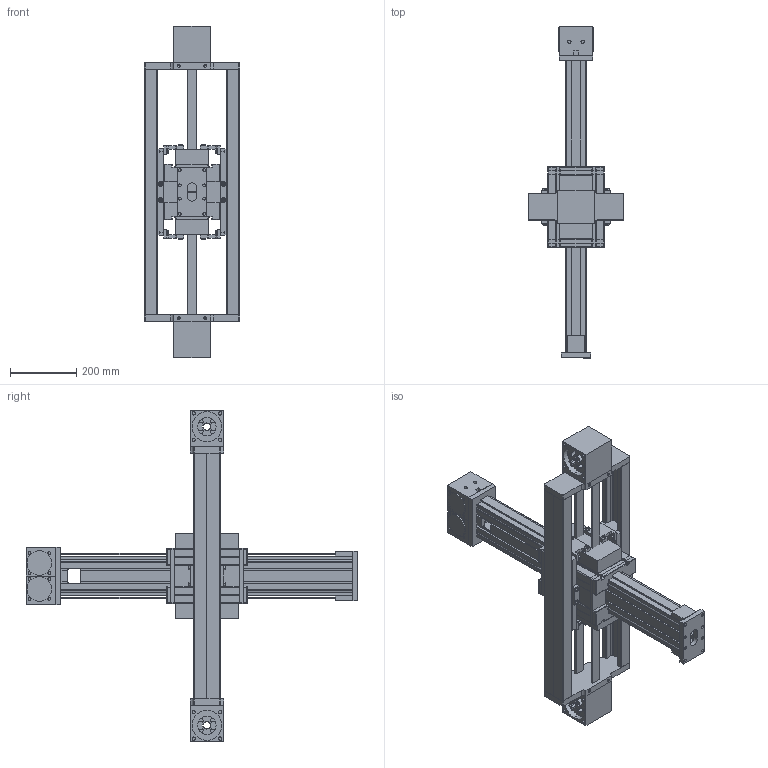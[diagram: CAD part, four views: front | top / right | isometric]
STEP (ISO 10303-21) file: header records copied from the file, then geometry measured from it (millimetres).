
FILE_DESCRIPTION (( 'STEP AP214' ), '1' );
FILE_NAME ('ELZI60SW.STEP', '2022-07-19T12:44:54', ( '' ), ( '' ), 'SwSTEP 2.0', 'SolidWorks 2020', '' );
FILE_SCHEMA (( 'AUTOMOTIVE_DESIGN' ));
Length unit declared in the file: millimetre
Products named in the file (12): end plate^ELZI60SW; reverse unit connection^ELZI60SW; timing belt reverse unit z^ELZI60SW_caps; profile x^ELZI60SW; carriage x^ELZI60SW_carriage version 0; end block^ELZI60SW; ELZI60SW; timing belt reverse unit x^ELZI60SW_coupling claw pos.1; timing belt reverse unit x^ELZI60SW_coupling claw pos.2; connecting angle^ELZI60SW; profile z^ELZI60SW; carriage z^ELZI60SW_carriage version 1
Assembly tree (17 placements, depth 2):
  ELZI60SW
    profile x^ELZI60SW
    profile z^ELZI60SW
    carriage z^ELZI60SW_carriage version 1
    carriage x^ELZI60SW_carriage version 0  x2
    connecting angle^ELZI60SW  x4
    end plate^ELZI60SW  x2
    timing belt reverse unit x^ELZI60SW_coupling claw pos.1
    timing belt reverse unit x^ELZI60SW_coupling claw pos.2
    timing belt reverse unit z^ELZI60SW_caps  x2
    end block^ELZI60SW
    reverse unit connection^ELZI60SW
Bounding box: 288 x 1000 x 1000 mm (x, y, z)
Volume: 18191746.1 mm3; surface area: 3195396.9 mm2
Topology: 49 solids, 49 shells, 1572 faces, 4050 edges, 2648 vertices
Faces by surface type: plane 1038, cylinder 478, bspline 32, torus 16, cone 8
Entity records: 44415 total; most frequent: CARTESIAN_POINT 9388, ORIENTED_EDGE 6498, DIRECTION 6473, EDGE_CURVE 3249, LINE 2383, VECTOR 2383, VERTEX_POINT 2140, AXIS2_PLACEMENT_3D 2045
